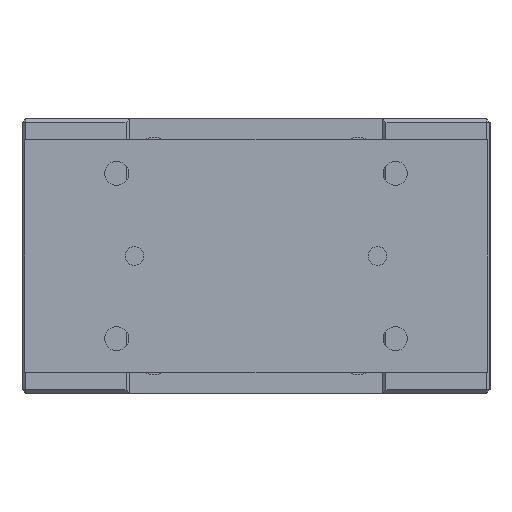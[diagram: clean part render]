
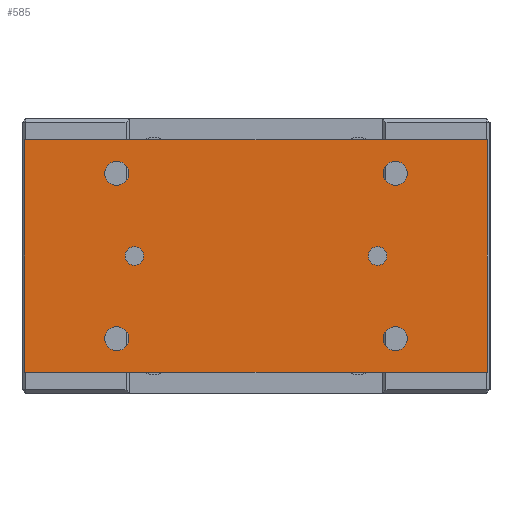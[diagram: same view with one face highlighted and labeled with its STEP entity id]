
A CAD part, left-side view. The second image highlights one B-rep face of the part: STEP entity #585.
In plain terms, the highlighted planar face has unit normal (-1, 0, 0).
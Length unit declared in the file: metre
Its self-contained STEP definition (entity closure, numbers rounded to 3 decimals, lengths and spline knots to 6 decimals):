
#585 = ADVANCED_FACE( '', ( #1333, #1334, #1335, #1336, #1337, #1338, #1339 ), #1340, .T. );
#1333 = FACE_BOUND( '', #2223, .T. );
#1334 = FACE_BOUND( '', #2224, .T. );
#1335 = FACE_BOUND( '', #2225, .T. );
#1336 = FACE_BOUND( '', #2226, .T. );
#1337 = FACE_BOUND( '', #2227, .T. );
#1338 = FACE_BOUND( '', #2228, .T. );
#1339 = FACE_OUTER_BOUND( '', #2229, .T. );
#1340 = PLANE( '', #2230 );
#2223 = EDGE_LOOP( '', ( #3661 ) );
#2224 = EDGE_LOOP( '', ( #3662 ) );
#2225 = EDGE_LOOP( '', ( #3663 ) );
#2226 = EDGE_LOOP( '', ( #3664 ) );
#2227 = EDGE_LOOP( '', ( #3665 ) );
#2228 = EDGE_LOOP( '', ( #3666 ) );
#2229 = EDGE_LOOP( '', ( #3667, #3668, #3669, #3670 ) );
#2230 = AXIS2_PLACEMENT_3D( '', #3671, #3672, #3673 );
#3661 = ORIENTED_EDGE( '', *, *, #4341, .F. );
#3662 = ORIENTED_EDGE( '', *, *, #4365, .T. );
#3663 = ORIENTED_EDGE( '', *, *, #4626, .F. );
#3664 = ORIENTED_EDGE( '', *, *, #4781, .F. );
#3665 = ORIENTED_EDGE( '', *, *, #4317, .F. );
#3666 = ORIENTED_EDGE( '', *, *, #4618, .F. );
#3667 = ORIENTED_EDGE( '', *, *, #4741, .T. );
#3668 = ORIENTED_EDGE( '', *, *, #4602, .T. );
#3669 = ORIENTED_EDGE( '', *, *, #4782, .T. );
#3670 = ORIENTED_EDGE( '', *, *, #4783, .T. );
#3671 = CARTESIAN_POINT( '', ( -0.143, -0.1245, -0.0115 ) );
#3672 = DIRECTION( '', ( -1., 0., 0. ) );
#3673 = DIRECTION( '', ( 0., 0., 1. ) );
#4317 = EDGE_CURVE( '', #4982, #4982, #4983, .T. );
#4341 = EDGE_CURVE( '', #5021, #5021, #5022, .T. );
#4365 = EDGE_CURVE( '', #5061, #5061, #5062, .T. );
#4602 = EDGE_CURVE( '', #5441, #5439, #5442, .T. );
#4618 = EDGE_CURVE( '', #5463, #5463, #5464, .T. );
#4626 = EDGE_CURVE( '', #5474, #5474, #5475, .T. );
#4741 = EDGE_CURVE( '', #5631, #5441, #5632, .T. );
#4781 = EDGE_CURVE( '', #5687, #5687, #5688, .T. );
#4782 = EDGE_CURVE( '', #5439, #5689, #5690, .T. );
#4783 = EDGE_CURVE( '', #5689, #5631, #5691, .T. );
#4982 = VERTEX_POINT( '', #5919 );
#4983 = CIRCLE( '', #5920, 0.0065 );
#5021 = VERTEX_POINT( '', #5964 );
#5022 = CIRCLE( '', #5965, 0.005 );
#5061 = VERTEX_POINT( '', #6018 );
#5062 = CIRCLE( '', #6019, 0.005 );
#5439 = VERTEX_POINT( '', #6647 );
#5441 = VERTEX_POINT( '', #6650 );
#5442 = LINE( '', #6651, #6652 );
#5463 = VERTEX_POINT( '', #6679 );
#5464 = CIRCLE( '', #6680, 0.0065 );
#5474 = VERTEX_POINT( '', #6691 );
#5475 = CIRCLE( '', #6692, 0.0065 );
#5631 = VERTEX_POINT( '', #6924 );
#5632 = LINE( '', #6925, #6926 );
#5687 = VERTEX_POINT( '', #7034 );
#5688 = CIRCLE( '', #7035, 0.0065 );
#5689 = VERTEX_POINT( '', #7036 );
#5690 = LINE( '', #7037, #7038 );
#5691 = LINE( '', #7039, #7040 );
#5919 = CARTESIAN_POINT( '', ( -0.143, -0.075, -0.023 ) );
#5920 = AXIS2_PLACEMENT_3D( '', #7346, #7347, #7348 );
#5964 = CARTESIAN_POINT( '', ( -0.143, -0.0705, -0.074 ) );
#5965 = AXIS2_PLACEMENT_3D( '', #7382, #7383, #7384 );
#6018 = CARTESIAN_POINT( '', ( -0.143, 0.0705, -0.074 ) );
#6019 = AXIS2_PLACEMENT_3D( '', #7408, #7409, #7410 );
#6647 = CARTESIAN_POINT( '', ( -0.143, 0.1245, -0.0115 ) );
#6650 = CARTESIAN_POINT( '', ( -0.143, -0.1245, -0.0115 ) );
#6651 = CARTESIAN_POINT( '', ( -0.143, -0.1245, -0.0115 ) );
#6652 = VECTOR( '', #7666, 1. );
#6679 = CARTESIAN_POINT( '', ( -0.143, 0.075, -0.023 ) );
#6680 = AXIS2_PLACEMENT_3D( '', #7682, #7683, #7684 );
#6691 = CARTESIAN_POINT( '', ( -0.143, -0.075, -0.112 ) );
#6692 = AXIS2_PLACEMENT_3D( '', #7692, #7693, #7694 );
#6924 = CARTESIAN_POINT( '', ( -0.143, -0.1245, -0.1365 ) );
#6925 = CARTESIAN_POINT( '', ( -0.143, -0.1245, -0.1365 ) );
#6926 = VECTOR( '', #7810, 1. );
#7034 = CARTESIAN_POINT( '', ( -0.143, 0.075, -0.112 ) );
#7035 = AXIS2_PLACEMENT_3D( '', #7843, #7844, #7845 );
#7036 = CARTESIAN_POINT( '', ( -0.143, 0.1245, -0.1365 ) );
#7037 = CARTESIAN_POINT( '', ( -0.143, 0.1245, -0.0115 ) );
#7038 = VECTOR( '', #7846, 1. );
#7039 = CARTESIAN_POINT( '', ( -0.143, 0.1245, -0.1365 ) );
#7040 = VECTOR( '', #7847, 1. );
#7346 = CARTESIAN_POINT( '', ( -0.143, -0.075, -0.0295 ) );
#7347 = DIRECTION( '', ( -1., 0., 0. ) );
#7348 = DIRECTION( '', ( 0., 0., 1. ) );
#7382 = CARTESIAN_POINT( '', ( -0.143, -0.0655, -0.074 ) );
#7383 = DIRECTION( '', ( -1., 0., 0. ) );
#7384 = DIRECTION( '', ( 0., -1., 0. ) );
#7408 = CARTESIAN_POINT( '', ( -0.143, 0.0655, -0.074 ) );
#7409 = DIRECTION( '', ( 1., 0., 0. ) );
#7410 = DIRECTION( '', ( 0., 1., 0. ) );
#7666 = DIRECTION( '', ( 0., 1., 0. ) );
#7682 = CARTESIAN_POINT( '', ( -0.143, 0.075, -0.0295 ) );
#7683 = DIRECTION( '', ( -1., 0., 0. ) );
#7684 = DIRECTION( '', ( 0., 0., 1. ) );
#7692 = CARTESIAN_POINT( '', ( -0.143, -0.075, -0.1185 ) );
#7693 = DIRECTION( '', ( -1., 0., 0. ) );
#7694 = DIRECTION( '', ( 0., 0., 1. ) );
#7810 = DIRECTION( '', ( 0., 0., 1. ) );
#7843 = CARTESIAN_POINT( '', ( -0.143, 0.075, -0.1185 ) );
#7844 = DIRECTION( '', ( -1., 0., 0. ) );
#7845 = DIRECTION( '', ( 0., 0., 1. ) );
#7846 = DIRECTION( '', ( 0., 0., -1. ) );
#7847 = DIRECTION( '', ( 0., -1., 0. ) );
